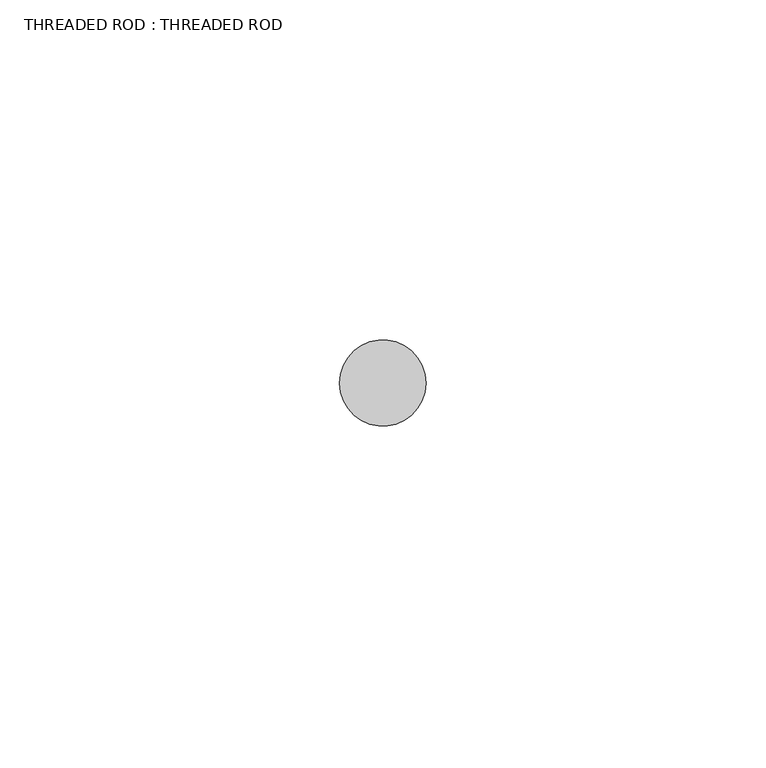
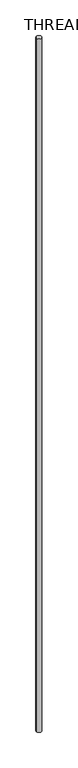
"""IFC4 building model written with IfcOpenShell, lengths in millimetres: proxy geometry, THREADED ROD : THREADED ROD."""

from ifc_helpers import new_model, si_unit, point, origin, origin_with_axes, origin_2d, place, context, project, spatial, circle_curve, trimmed, segment, composite_curve, outline, extrude, source, transform, mapped, element, save


def threaded_rod_threaded_rod_3e89cda6(model_context):
    return source(origin(), model_context, "Body", "SweptSolid", [
        extrude(outline(composite_curve([segment(trimmed(circle_curve(origin_2d(), 6.35), [point((-6.35, 0.0))], [point((6.35, 0.0))], False, "CARTESIAN"), True, "CONTINUOUS"), segment(trimmed(circle_curve(origin_2d(), 6.35), [point((6.35, 0.0))], [point((-6.35, 0.0))], False, "CARTESIAN"), True, "CONTINUOUS")], self_intersect=False)), origin_with_axes(), (0.0, 0.0, 1.0), 1828.8),
    ])


if __name__ == "__main__":
    model = new_model("IFC4")
    model_context = context("Model", 3, world=origin())
    ifc_project = project(units=[si_unit("LENGTHUNIT", "METRE", prefix="MILLI")], contexts=[model_context])
    site = spatial("IfcSite", under=ifc_project)
    building = spatial("IfcBuilding", under=site)
    placement = place(None, origin())
    threaded_rod_threaded_rod_shape = threaded_rod_threaded_rod_3e89cda6(model_context)
    element("IfcBuildingElementProxy", 1, Name="THREADED ROD : THREADED ROD", ObjectType="THREADED ROD : THREADED ROD", at=placement, inside=building, context=model_context, shape_type="MappedRepresentation", body=[
        mapped(threaded_rod_threaded_rod_shape, transform((0.0, 0.0, 0.0), x_axis=(1.0, 0.0, 0.0), y_axis=(0.0, 1.0, 0.0), z_axis=(0.0, 0.0, 1.0))),
    ])
    save(model, "model.ifc")
